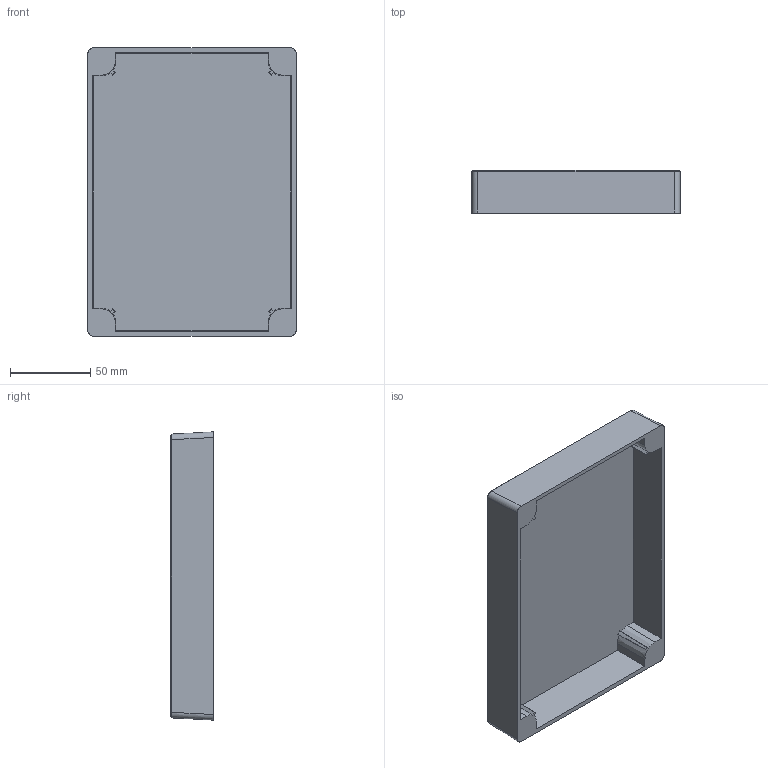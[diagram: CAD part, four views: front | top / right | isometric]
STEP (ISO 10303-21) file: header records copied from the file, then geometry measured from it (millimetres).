
FILE_DESCRIPTION (( 'STEP AP214' ), '1' );
FILE_NAME ('FIBOX_MNX15025C.STEP', '2009-04-08T04:19:57', ( '' ), ( '' ), 'SwSTEP 2.0', 'SolidWorks 2008', '' );
FILE_SCHEMA (( 'AUTOMOTIVE_DESIGN' ));
Length unit declared in the file: millimetre
Products named in the file (1): FIBOX_MNX15025C
Bounding box: 130 x 26.6 x 180 mm (x, y, z)
Volume: 104190 mm3; surface area: 78292.1 mm2
Topology: 1 solids, 1 shells, 72 faces, 184 edges, 120 vertices
Faces by surface type: plane 40, cylinder 16, cone 12, bspline 4
Entity records: 2315 total; most frequent: CARTESIAN_POINT 585, ORIENTED_EDGE 368, DIRECTION 334, EDGE_CURVE 184, VERTEX_POINT 120, AXIS2_PLACEMENT_3D 117, VECTOR 100, LINE 100
